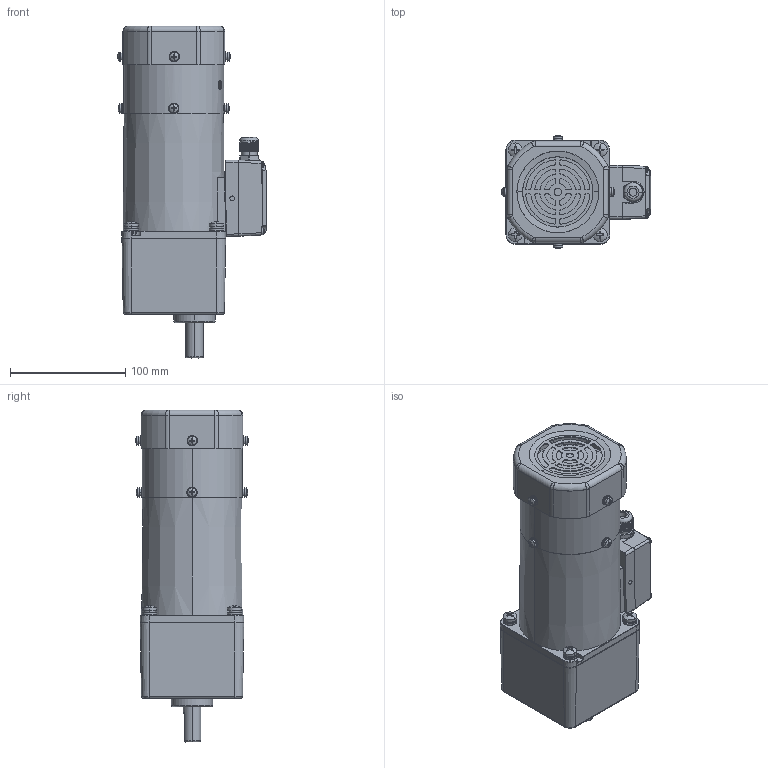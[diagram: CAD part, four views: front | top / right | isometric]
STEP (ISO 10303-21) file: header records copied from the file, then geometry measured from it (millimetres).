
FILE_DESCRIPTION (( 'STEP AP203' ), '1' );
FILE_NAME ('5RK90GU-CMFT(5GU3KB-200KB).STEP', '2020-04-10T09:42:08', ( 'Windows 蚚誧' ), ( '' ), 'SwSTEP 2.0', 'SolidWorks 2019', '' );
FILE_SCHEMA (( 'CONFIG_CONTROL_DESIGN' ));
Length unit declared in the file: millimetre
Products named in the file (11): M3^70TSJXHG(2)_70TSJXHG; 5RK90GU-CMFT(5GU3KB-200KB); 70TSJXHG(2)^70TSJXHG; 70TSJXHG; 90SCZ; 90TSJXHJK; 90FZ; TSJXH^70TSJXHG(2)_70TSJXHG; 5RK90A-CMFT; M14SJQ^70TSJXHG(2)_70TSJXHG; 5GU3KB-200KB
Assembly tree (13 placements, depth 5):
  5RK90GU-CMFT(5GU3KB-200KB)
    5RK90A-CMFT
      90TSJXHJK
      70TSJXHG
        70TSJXHG(2)^70TSJXHG
          TSJXH^70TSJXHG(2)_70TSJXHG
          M14SJQ^70TSJXHG(2)_70TSJXHG
          M3^70TSJXHG(2)_70TSJXHG  x4
      90SCZ
      90FZ
    5GU3KB-200KB
Bounding box: 129.3 x 98.11 x 288 mm (x, y, z)
Volume: 809385.1 mm3; surface area: 244083.3 mm2
Topology: 49 solids, 50 shells, 2073 faces, 5329 edges, 3373 vertices
Faces by surface type: cylinder 783, plane 593, cone 424, torus 154, sphere 67, bspline 52
Entity records: 60688 total; most frequent: CARTESIAN_POINT 17981, DIRECTION 9150, ORIENTED_EDGE 8574, EDGE_CURVE 4287, AXIS2_PLACEMENT_3D 3750, VERTEX_POINT 2752, CIRCLE 2098, EDGE_LOOP 1827
